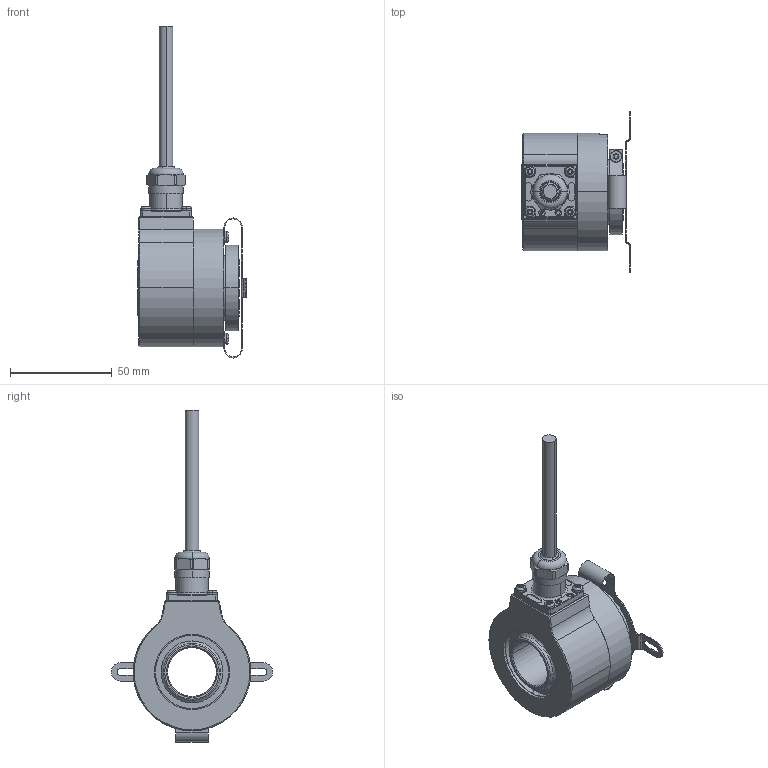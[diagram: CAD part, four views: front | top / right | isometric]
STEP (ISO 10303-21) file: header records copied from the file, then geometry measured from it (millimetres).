
FILE_DESCRIPTION (( 'STEP AP203' ), '1' );
FILE_NAME ('K58I.OXX.XXXXX.XH16524.XXR31.XXXX.step', '2025-12-03T08:43:47', ( '' ), ( '' ), 'SwSTEP 2.0', 'SolidWorks 2021', '' );
FILE_SCHEMA (( 'CONFIG_CONTROL_DESIGN' ));
Length unit declared in the file: millimetre
Products named in the file (1): K58I.OXX.XXXXX.XH16524.XXR31.XXXX
Bounding box: 53.45 x 79.4 x 163.5 mm (x, y, z)
Volume: 113124.5 mm3; surface area: 48849 mm2
Topology: 10 solids, 10 shells, 736 faces, 1871 edges, 1169 vertices
Faces by surface type: cylinder 329, plane 234, cone 74, bspline 48, torus 35, sphere 16
Entity records: 24777 total; most frequent: CARTESIAN_POINT 7009, DIRECTION 3770, ORIENTED_EDGE 3718, EDGE_CURVE 1859, AXIS2_PLACEMENT_3D 1460, VERTEX_POINT 1169, LINE 850, VECTOR 850
